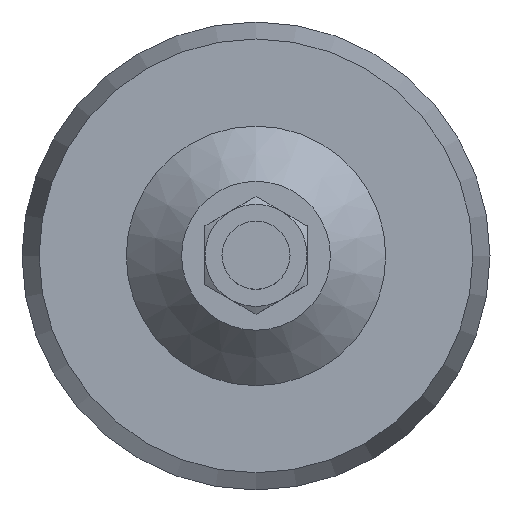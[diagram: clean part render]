
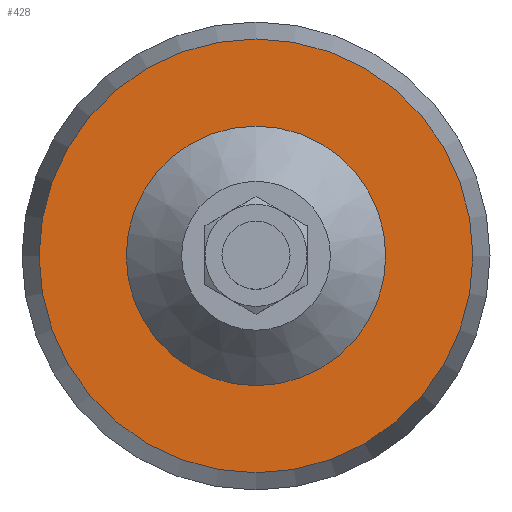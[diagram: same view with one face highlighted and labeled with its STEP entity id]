
A CAD part, top view. The second image highlights one B-rep face of the part: STEP entity #428.
In plain terms, the highlighted planar face has unit normal (0, 0, 1).
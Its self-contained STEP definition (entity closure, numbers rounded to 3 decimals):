
#35=FACE_BOUND('',#133,.T.);
#63=PLANE('',#483);
#93=FACE_OUTER_BOUND('',#132,.T.);
#132=EDGE_LOOP('',(#378));
#133=EDGE_LOOP('',(#379));
#160=CIRCLE('',#482,30.5);
#161=CIRCLE('',#484,50.981);
#220=VERTEX_POINT('',#768);
#221=VERTEX_POINT('',#771);
#274=EDGE_CURVE('',#220,#220,#160,.T.);
#275=EDGE_CURVE('',#221,#221,#161,.T.);
#378=ORIENTED_EDGE('',*,*,#275,.F.);
#379=ORIENTED_EDGE('',*,*,#274,.T.);
#428=ADVANCED_FACE('',(#93,#35),#63,.T.);
#482=AXIS2_PLACEMENT_3D('',#769,#592,#593);
#483=AXIS2_PLACEMENT_3D('',#770,#594,#595);
#484=AXIS2_PLACEMENT_3D('',#772,#596,#597);
#592=DIRECTION('center_axis',(0.,0.,-1.));
#593=DIRECTION('ref_axis',(1.,0.,0.));
#594=DIRECTION('center_axis',(0.,0.,1.));
#595=DIRECTION('ref_axis',(1.,0.,0.));
#596=DIRECTION('center_axis',(0.,0.,-1.));
#597=DIRECTION('ref_axis',(1.,0.,0.));
#768=CARTESIAN_POINT('',(0.,30.5,17.));
#769=CARTESIAN_POINT('Origin',(0.,0.,17.));
#770=CARTESIAN_POINT('Origin',(0.,50.981,17.));
#771=CARTESIAN_POINT('',(0.,50.981,17.));
#772=CARTESIAN_POINT('Origin',(0.,0.,17.));
